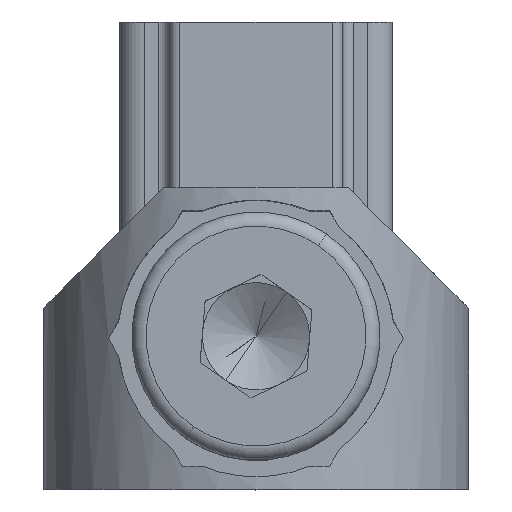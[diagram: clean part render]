
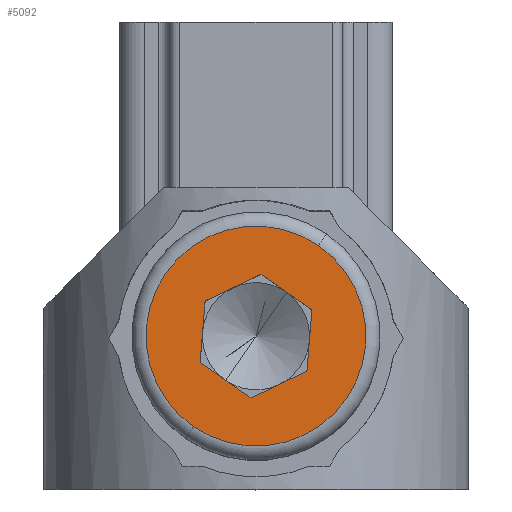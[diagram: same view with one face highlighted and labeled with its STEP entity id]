
A CAD part, top view. The second image highlights one B-rep face of the part: STEP entity #5092.
In plain terms, the highlighted planar face has unit normal (0, 0, 1) as drawn and (-1, 0, 0) by its records, which use the part's own axes.
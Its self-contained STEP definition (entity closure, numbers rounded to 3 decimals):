
#77 = CARTESIAN_POINT ( 'NONE',  ( 0., 0., 0. ) ) ;
#122 = DIRECTION ( 'NONE',  ( 0., 0., 1. ) ) ;
#281 = DIRECTION ( 'NONE',  ( 0., -0.5, 0.866 ) ) ;
#327 = EDGE_CURVE ( 'NONE', #1541, #3271, #6524, .T. ) ;
#399 = CARTESIAN_POINT ( 'NONE',  ( 0., -0.872, 1.51 ) ) ;
#469 = CARTESIAN_POINT ( 'NONE',  ( 0., 0., 3.1 ) ) ;
#544 = CARTESIAN_POINT ( 'NONE',  ( 0., 0., 0. ) ) ;
#597 = CARTESIAN_POINT ( 'NONE',  ( 0., 0.872, -1.51 ) ) ;
#767 = CARTESIAN_POINT ( 'NONE',  ( 0., -1.744, 0. ) ) ;
#797 = LINE ( 'NONE', #1730, #2001 ) ;
#934 = CARTESIAN_POINT ( 'NONE',  ( 0., 1.744, 0. ) ) ;
#1059 = DIRECTION ( 'NONE',  ( 0., -1., 0. ) ) ;
#1153 = VERTEX_POINT ( 'NONE', #469 ) ;
#1239 = VERTEX_POINT ( 'NONE', #1450 ) ;
#1450 = CARTESIAN_POINT ( 'NONE',  ( 0., 1.744, 0. ) ) ;
#1514 = EDGE_CURVE ( 'NONE', #6558, #5115, #2414, .T. ) ;
#1541 = VERTEX_POINT ( 'NONE', #1799 ) ;
#1625 = CARTESIAN_POINT ( 'NONE',  ( 0., 0.872, 1.51 ) ) ;
#1730 = CARTESIAN_POINT ( 'NONE',  ( 0., 1.744, 0. ) ) ;
#1754 = EDGE_LOOP ( 'NONE', ( #6281, #5526 ) ) ;
#1770 = VECTOR ( 'NONE', #3867, 1000. ) ;
#1799 = CARTESIAN_POINT ( 'NONE',  ( 0., 0.872, -1.51 ) ) ;
#1822 = CARTESIAN_POINT ( 'NONE',  ( 0., 0., -3.1 ) ) ;
#1865 = ORIENTED_EDGE ( 'NONE', *, *, #3159, .F. ) ;
#2001 = VECTOR ( 'NONE', #281, 1000. ) ;
#2108 = PLANE ( 'NONE',  #5872 ) ;
#2114 = VECTOR ( 'NONE', #1059, 1000. ) ;
#2126 = DIRECTION ( 'NONE',  ( -1., 0., 0. ) ) ;
#2129 = EDGE_CURVE ( 'NONE', #6558, #4188, #3108, .T. ) ;
#2260 = ORIENTED_EDGE ( 'NONE', *, *, #2714, .T. ) ;
#2414 = LINE ( 'NONE', #5301, #1770 ) ;
#2542 = VECTOR ( 'NONE', #6451, 1000. ) ;
#2629 = EDGE_CURVE ( 'NONE', #1239, #5115, #797, .T. ) ;
#2714 = EDGE_CURVE ( 'NONE', #4188, #3271, #5953, .T. ) ;
#2758 = FACE_BOUND ( 'NONE', #5876, .T. ) ;
#2836 = DIRECTION ( 'NONE',  ( 0., -0.5, -0.866 ) ) ;
#3012 = LINE ( 'NONE', #934, #2542 ) ;
#3108 = LINE ( 'NONE', #4438, #4151 ) ;
#3147 = DIRECTION ( 'NONE',  ( -1., 0., 0. ) ) ;
#3159 = EDGE_CURVE ( 'NONE', #1239, #1541, #3012, .T. ) ;
#3193 = CARTESIAN_POINT ( 'NONE',  ( 0., -1.744, 0. ) ) ;
#3216 = DIRECTION ( 'NONE',  ( 0., 0.5, -0.866 ) ) ;
#3221 = AXIS2_PLACEMENT_3D ( 'NONE', #4681, #2126, #6161 ) ;
#3271 = VERTEX_POINT ( 'NONE', #3500 ) ;
#3500 = CARTESIAN_POINT ( 'NONE',  ( 0., -0.872, -1.51 ) ) ;
#3867 = DIRECTION ( 'NONE',  ( 0., 1., 0. ) ) ;
#4115 = ORIENTED_EDGE ( 'NONE', *, *, #327, .F. ) ;
#4151 = VECTOR ( 'NONE', #2836, 1000. ) ;
#4188 = VERTEX_POINT ( 'NONE', #767 ) ;
#4351 = CIRCLE ( 'NONE', #4554, 3.1 ) ;
#4396 = ORIENTED_EDGE ( 'NONE', *, *, #1514, .F. ) ;
#4438 = CARTESIAN_POINT ( 'NONE',  ( 0., -0.872, 1.51 ) ) ;
#4554 = AXIS2_PLACEMENT_3D ( 'NONE', #544, #3147, #122 ) ;
#4568 = EDGE_CURVE ( 'NONE', #5935, #1153, #4351, .T. ) ;
#4681 = CARTESIAN_POINT ( 'NONE',  ( 0., 0., 0. ) ) ;
#5092 = ADVANCED_FACE ( 'NONE', ( #2758, #6314 ), #2108, .T. ) ;
#5115 = VERTEX_POINT ( 'NONE', #1625 ) ;
#5191 = DIRECTION ( 'NONE',  ( -1., 0., 0. ) ) ;
#5301 = CARTESIAN_POINT ( 'NONE',  ( 0., -0.872, 1.51 ) ) ;
#5306 = ORIENTED_EDGE ( 'NONE', *, *, #2629, .T. ) ;
#5340 = ORIENTED_EDGE ( 'NONE', *, *, #2129, .T. ) ;
#5526 = ORIENTED_EDGE ( 'NONE', *, *, #4568, .T. ) ;
#5654 = DIRECTION ( 'NONE',  ( 0., 0., 1. ) ) ;
#5759 = EDGE_CURVE ( 'NONE', #1153, #5935, #6413, .T. ) ;
#5866 = VECTOR ( 'NONE', #3216, 1000. ) ;
#5872 = AXIS2_PLACEMENT_3D ( 'NONE', #77, #5191, #5654 ) ;
#5876 = EDGE_LOOP ( 'NONE', ( #5306, #4396, #5340, #2260, #4115, #1865 ) ) ;
#5935 = VERTEX_POINT ( 'NONE', #1822 ) ;
#5953 = LINE ( 'NONE', #3193, #5866 ) ;
#6161 = DIRECTION ( 'NONE',  ( 0., 0., 1. ) ) ;
#6281 = ORIENTED_EDGE ( 'NONE', *, *, #5759, .T. ) ;
#6314 = FACE_OUTER_BOUND ( 'NONE', #1754, .T. ) ;
#6413 = CIRCLE ( 'NONE', #3221, 3.1 ) ;
#6451 = DIRECTION ( 'NONE',  ( 0., -0.5, -0.866 ) ) ;
#6524 = LINE ( 'NONE', #597, #2114 ) ;
#6558 = VERTEX_POINT ( 'NONE', #399 ) ;
